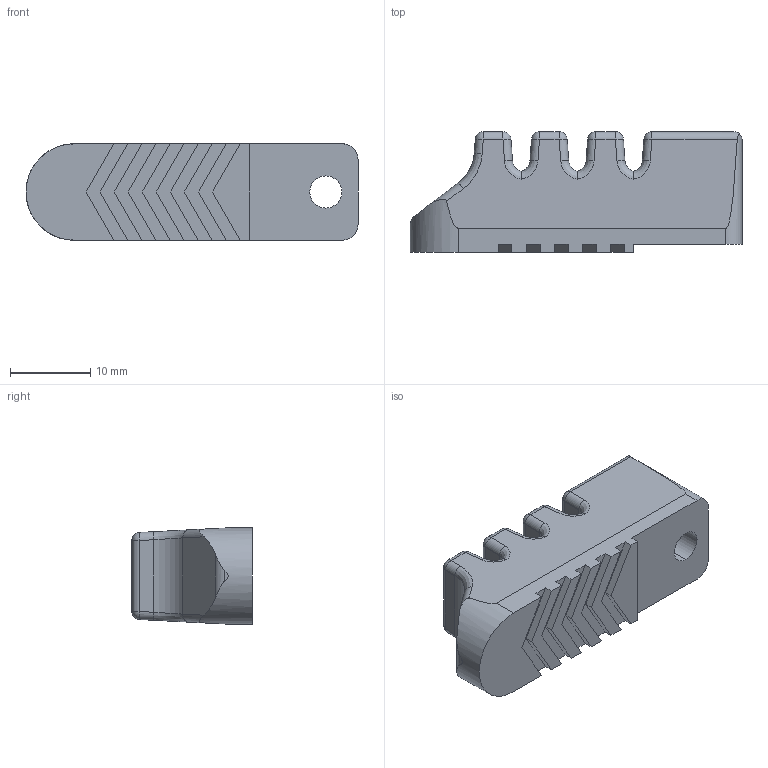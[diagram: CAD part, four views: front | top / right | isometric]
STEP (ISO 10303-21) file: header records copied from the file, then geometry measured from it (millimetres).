
FILE_DESCRIPTION (( 'STEP AP214' ), '1' );
FILE_NAME ('C4.STEP', '2019-12-04T07:22:39', ( '微软用户' ), ( '微软中国' ), 'SwSTEP 2.0', 'SolidWorks 2016', '' );
FILE_SCHEMA (( 'AUTOMOTIVE_DESIGN' ));
Length unit declared in the file: millimetre
Products named in the file (1): C4
Bounding box: 41.35 x 15 x 12 mm (x, y, z)
Volume: 5502.2 mm3; surface area: 2653.1 mm2
Topology: 1 solids, 1 shells, 124 faces, 302 edges, 180 vertices
Faces by surface type: plane 51, cylinder 45, sphere 14, bspline 14
Entity records: 5897 total; most frequent: CARTESIAN_POINT 1746, ORIENTED_EDGE 604, DIRECTION 538, EDGE_CURVE 302, VECTOR 186, LINE 186, VERTEX_POINT 180, AXIS2_PLACEMENT_3D 176
